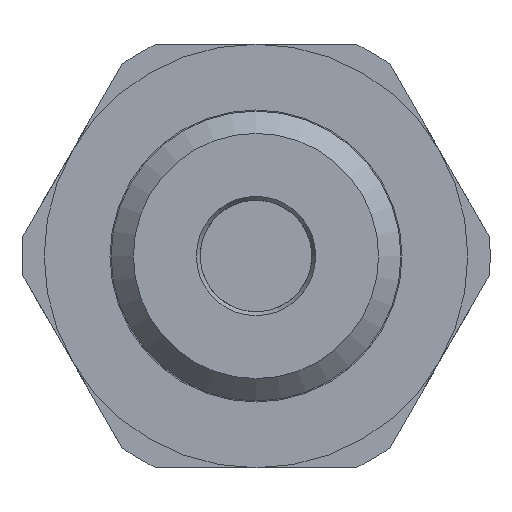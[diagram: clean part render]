
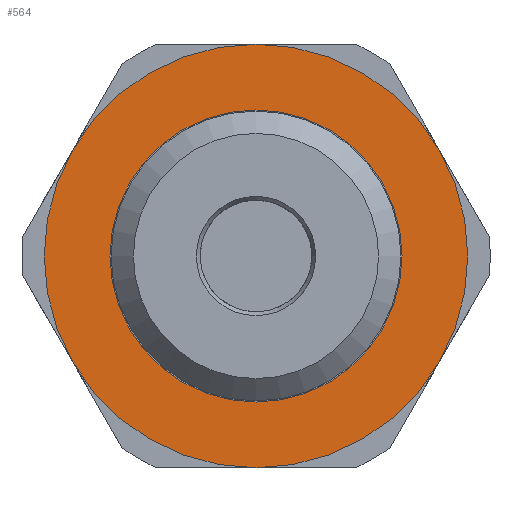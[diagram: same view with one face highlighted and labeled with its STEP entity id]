
A CAD part, front view. The second image highlights one B-rep face of the part: STEP entity #564.
In plain terms, the highlighted planar face has unit normal (0, -1, 0).
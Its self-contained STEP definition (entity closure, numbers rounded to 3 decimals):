
#102=FACE_BOUND('',#145,.T.);
#109=FACE_OUTER_BOUND('',#144,.T.);
#144=EDGE_LOOP('',(#364));
#145=EDGE_LOOP('',(#365));
#182=CIRCLE('',#620,6.55);
#184=CIRCLE('',#623,9.5);
#223=VERTEX_POINT('',#878);
#225=VERTEX_POINT('',#884);
#276=EDGE_CURVE('',#223,#223,#182,.T.);
#280=EDGE_CURVE('',#225,#225,#184,.T.);
#364=ORIENTED_EDGE('',*,*,#280,.T.);
#365=ORIENTED_EDGE('',*,*,#276,.T.);
#514=PLANE('',#624);
#564=ADVANCED_FACE('',(#109,#102),#514,.F.);
#620=AXIS2_PLACEMENT_3D('',#879,#702,#703);
#623=AXIS2_PLACEMENT_3D('',#886,#710,#711);
#624=AXIS2_PLACEMENT_3D('',#887,#712,#713);
#702=DIRECTION('center_axis',(0.,1.,0.));
#703=DIRECTION('ref_axis',(-1.,0.,0.));
#710=DIRECTION('center_axis',(0.,-1.,0.));
#711=DIRECTION('ref_axis',(-1.,0.,0.));
#712=DIRECTION('center_axis',(0.,1.,0.));
#713=DIRECTION('ref_axis',(1.,0.,0.));
#878=CARTESIAN_POINT('',(6.55,8.5,0.));
#879=CARTESIAN_POINT('Origin',(0.,8.5,0.));
#884=CARTESIAN_POINT('',(9.5,8.5,0.));
#886=CARTESIAN_POINT('Origin',(0.,8.5,0.));
#887=CARTESIAN_POINT('Origin',(0.,8.5,0.));
